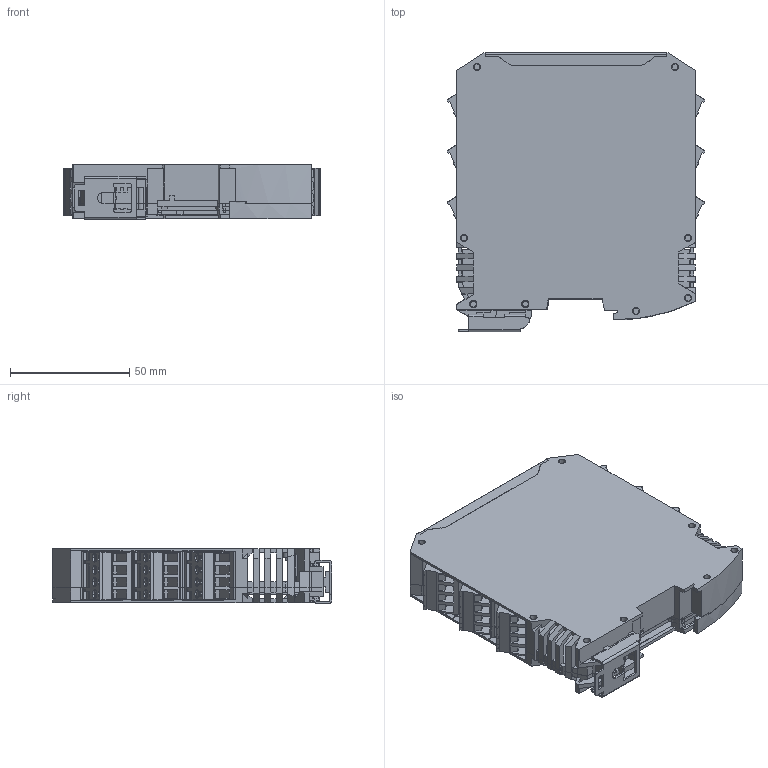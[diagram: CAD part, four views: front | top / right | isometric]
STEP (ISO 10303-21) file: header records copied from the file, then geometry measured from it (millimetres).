
FILE_DESCRIPTION((''),'2;1');
FILE_NAME('YD-D7_ASM','2023-10-08T',('Administrator'),(''),'PRO/ENGINEER BY PARAMETRIC TECHNOLOGY CORPORATION, 2008020','PRO/ENGINEER BY PARAMETRIC TECHNOLOGY CORPORATION, 2008020','');
FILE_SCHEMA(('AUTOMOTIVE_DESIGN_CC2 { 1 2 10303 214 -1 1 5 2 }'));
Length unit declared in the file: millimetre
Products named in the file (16): CEGAI_ASM; LAKOU; XYD7-SHANGGAI; XYD7-XIAGAI; XINGYUN-D7TOUMINGGAI; XINGYUN-PVC; 8848D71V10; DUANZI2; DUANZI; MAIN-PCB_ASM; D7NEW; 6X6X8-ANJIAN; 88; D7-XIANSHIBAN_ASM; XINGYUN_ASM; YD-D7_ASM
Assembly tree (28 placements, depth 4):
  YD-D7_ASM
    CEGAI_ASM
    LAKOU
    XINGYUN_ASM
      XYD7-SHANGGAI
      XYD7-XIAGAI
      XINGYUN-D7TOUMINGGAI
      XINGYUN-PVC
      MAIN-PCB_ASM
        8848D71V10
        DUANZI2  x6
        DUANZI  x6
      D7-XIANSHIBAN_ASM
        D7NEW
        6X6X8-ANJIAN  x4
        88
Bounding box: 107.99 x 116.94 x 22.95 mm (x, y, z)
Volume: 85533.8 mm3; surface area: 118943.2 mm2
Topology: 85 solids, 85 shells, 4416 faces, 26381 edges, 30719 vertices
Faces by surface type: plane 3272, cylinder 709, extrusion 297, torus 56, bspline 50, cone 32
Entity records: 248457 total; most frequent: CARTESIAN_POINT 37657, DIRECTION 34207, PRESENTATION_STYLE_ASSIGNMENT 23060, STYLED_ITEM 22945, CURVE_STYLE 22773, ORIENTED_EDGE 16524, VECTOR 14831, LINE 14534
